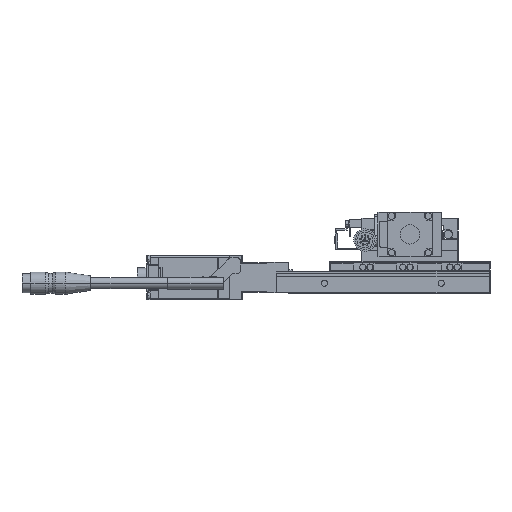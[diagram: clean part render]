
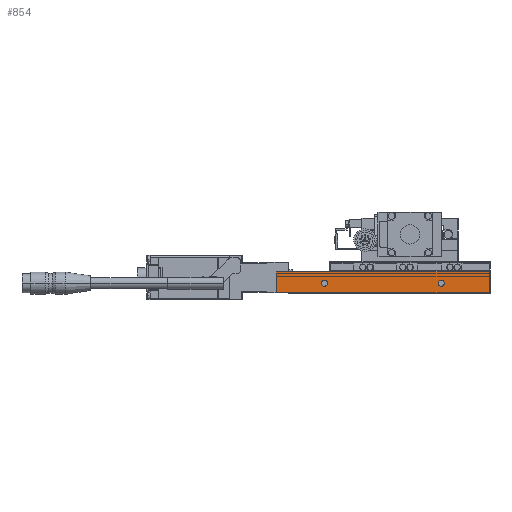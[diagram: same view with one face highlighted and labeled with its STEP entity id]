
A CAD part, front view. The second image highlights one B-rep face of the part: STEP entity #854.
In plain terms, the highlighted planar face has unit normal (0, -1, 0).
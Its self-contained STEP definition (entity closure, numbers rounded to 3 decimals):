
#854=ADVANCED_FACE('',(#2409,#2410,#2411),#2412,.F.);
#2409=FACE_BOUND('',#5253,.T.);
#2410=FACE_OUTER_BOUND('',#5254,.T.);
#2411=FACE_BOUND('',#5255,.T.);
#2412=PLANE('',#5256);
#5253=EDGE_LOOP('',(#9247,#9248));
#5254=EDGE_LOOP('',(#9249,#9250,#9251,#9252));
#5255=EDGE_LOOP('',(#9253,#9254));
#5256=AXIS2_PLACEMENT_3D('',#9255,#9256,#9257);
#9247=ORIENTED_EDGE('',*,*,#18611,.F.);
#9248=ORIENTED_EDGE('',*,*,#18634,.F.);
#9249=ORIENTED_EDGE('',*,*,#18635,.T.);
#9250=ORIENTED_EDGE('',*,*,#18636,.F.);
#9251=ORIENTED_EDGE('',*,*,#18637,.F.);
#9252=ORIENTED_EDGE('',*,*,#18638,.T.);
#9253=ORIENTED_EDGE('',*,*,#18607,.F.);
#9254=ORIENTED_EDGE('',*,*,#18639,.F.);
#9255=CARTESIAN_POINT('',(49.5,-46.8,13.5));
#9256=DIRECTION('',(0.,1.0,0.));
#9257=DIRECTION('',(0.,0.,-1.0));
#18607=EDGE_CURVE('',#22160,#22156,#22162,.F.);
#18611=EDGE_CURVE('',#22168,#22164,#22170,.F.);
#18634=EDGE_CURVE('',#22164,#22168,#22211,.F.);
#18635=EDGE_CURVE('',#22212,#22213,#22214,.T.);
#18636=EDGE_CURVE('',#22215,#22213,#22216,.T.);
#18637=EDGE_CURVE('',#22217,#22215,#22218,.T.);
#18638=EDGE_CURVE('',#22217,#22212,#22219,.T.);
#18639=EDGE_CURVE('',#22156,#22160,#22220,.F.);
#22156=VERTEX_POINT('',#27788);
#22160=VERTEX_POINT('',#27793);
#22162=CIRCLE('',#27796,1.95);
#22164=VERTEX_POINT('',#27798);
#22168=VERTEX_POINT('',#27803);
#22170=CIRCLE('',#27806,1.95);
#22211=CIRCLE('',#27861,1.95);
#22212=VERTEX_POINT('',#27862);
#22213=VERTEX_POINT('',#27863);
#22214=LINE('',#27864,#27865);
#22215=VERTEX_POINT('',#27866);
#22216=LINE('',#27867,#27868);
#22217=VERTEX_POINT('',#27869);
#22218=LINE('',#27870,#27871);
#22219=LINE('',#27872,#27873);
#22220=CIRCLE('',#27874,1.95);
#27788=CARTESIAN_POINT('',(21.45,-46.8,6.5));
#27793=CARTESIAN_POINT('',(17.55,-46.8,6.5));
#27796=AXIS2_PLACEMENT_3D('',#35097,#35098,#35099);
#27798=CARTESIAN_POINT('',(-51.55,-46.8,6.5));
#27803=CARTESIAN_POINT('',(-55.45,-46.8,6.5));
#27806=AXIS2_PLACEMENT_3D('',#35105,#35106,#35107);
#27861=AXIS2_PLACEMENT_3D('',#35146,#35147,#35148);
#27862=CARTESIAN_POINT('',(-83.5,-46.8,13.5));
#27863=CARTESIAN_POINT('',(-83.5,-46.8,0.5));
#27864=CARTESIAN_POINT('',(-83.5,-46.8,13.5));
#27865=VECTOR('',#35149,1000.0);
#27866=CARTESIAN_POINT('',(49.5,-46.8,0.5));
#27867=CARTESIAN_POINT('',(49.5,-46.8,0.5));
#27868=VECTOR('',#35150,1000.0);
#27869=CARTESIAN_POINT('',(49.5,-46.8,13.5));
#27870=CARTESIAN_POINT('',(49.5,-46.8,13.5));
#27871=VECTOR('',#35151,1000.0);
#27872=CARTESIAN_POINT('',(49.5,-46.8,13.5));
#27873=VECTOR('',#35152,1000.0);
#27874=AXIS2_PLACEMENT_3D('',#35153,#35154,#35155);
#35097=CARTESIAN_POINT('',(19.5,-46.8,6.5));
#35098=DIRECTION('',(0.,1.0,0.));
#35099=DIRECTION('',(-1.0,0.,0.));
#35105=CARTESIAN_POINT('',(-53.5,-46.8,6.5));
#35106=DIRECTION('',(0.,1.0,0.));
#35107=DIRECTION('',(-1.0,0.,0.));
#35146=CARTESIAN_POINT('',(-53.5,-46.8,6.5));
#35147=DIRECTION('',(0.,1.0,0.));
#35148=DIRECTION('',(-1.0,0.,0.));
#35149=DIRECTION('',(0.,0.,-1.0));
#35150=DIRECTION('',(-1.0,0.,0.));
#35151=DIRECTION('',(0.,0.,-1.0));
#35152=DIRECTION('',(-1.0,0.,0.));
#35153=CARTESIAN_POINT('',(19.5,-46.8,6.5));
#35154=DIRECTION('',(0.,1.0,0.));
#35155=DIRECTION('',(-1.0,0.,0.));
